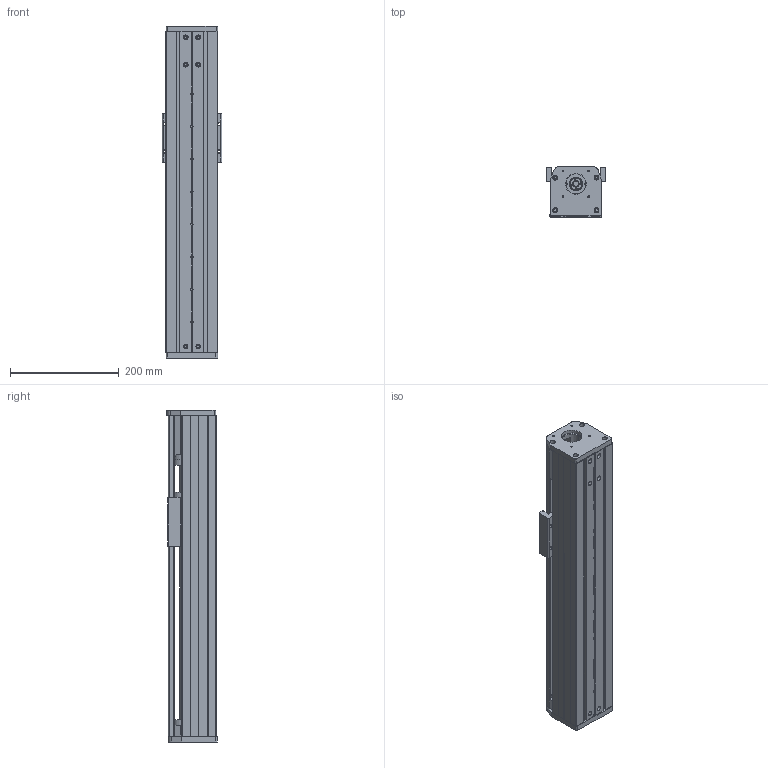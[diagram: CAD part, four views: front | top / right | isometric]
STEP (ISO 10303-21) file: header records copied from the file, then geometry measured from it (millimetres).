
FILE_DESCRIPTION (( 'STEP AP203' ), '1' );
FILE_NAME ('CF95-1-P350.STEP', '2016-02-23T03:18:42', ( 'Sky123.Org' ), ( 'Sky123.Org' ), 'SwSTEP 2.0', 'SolidWorks 2015', '' );
FILE_SCHEMA (( 'CONFIG_CONTROL_DESIGN' ));
Length unit declared in the file: millimetre
Products named in the file (18): 95裔啣-1-750; SFU1605-3; 95臏倰第-1-750; 95賑輸; CF-HGR20絳寢-750; deep groove ball bearings gb_Rolling bearings 6001 GB 276-94; SFS1605-750; angular contact ball bearings gb_Rolling bearings S7001 GB 292-94; CF95-57步进电机座（配30-42联轴器）; 坶踡蹟譫M12-1; CF95固定座（配30-42联轴器）; 95耜啣; CF-HGW20CA; CF95-1-P350; circlips for shaft--type a large gb_GB_CONNECTING_PIECE_RING_RRA 12; 95滅袉蝶菜; 95盓厥傷; 95粣創裔啣
Assembly tree (19 placements, depth 2):
  CF95-1-P350
    CF-HGW20CA
    95滅袉蝶菜  x2
    95粣創裔啣
    SFU1605-3
    95賑輸
    deep groove ball bearings gb_Rolling bearings 6001 GB 276-94
    angular contact ball bearings gb_Rolling bearings S7001 GB 292-94  x2
    坶踡蹟譫M12-1
    95耜啣
    circlips for shaft--type a large gb_GB_CONNECTING_PIECE_RING_RRA 12
    95盓厥傷
    95裔啣-1-750
    95臏倰第-1-750
    CF-HGR20絳寢-750
    SFS1605-750
    CF95-57步进电机座（配30-42联轴器）
    CF95固定座（配30-42联轴器）
Bounding box: 110 x 92.9 x 611 mm (x, y, z)
Volume: 2343606.1 mm3; surface area: 724131.2 mm2
Topology: 19 solids, 19 shells, 1053 faces, 3494 edges, 2335 vertices
Faces by surface type: cylinder 419, plane 386, torus 159, sphere 84, cone 4, bspline 1
Entity records: 38743 total; most frequent: CARTESIAN_POINT 11201, ORIENTED_EDGE 5632, DIRECTION 5202, EDGE_CURVE 2816, AXIS2_PLACEMENT_3D 1989, VERTEX_POINT 1878, LINE 1224, VECTOR 1224
